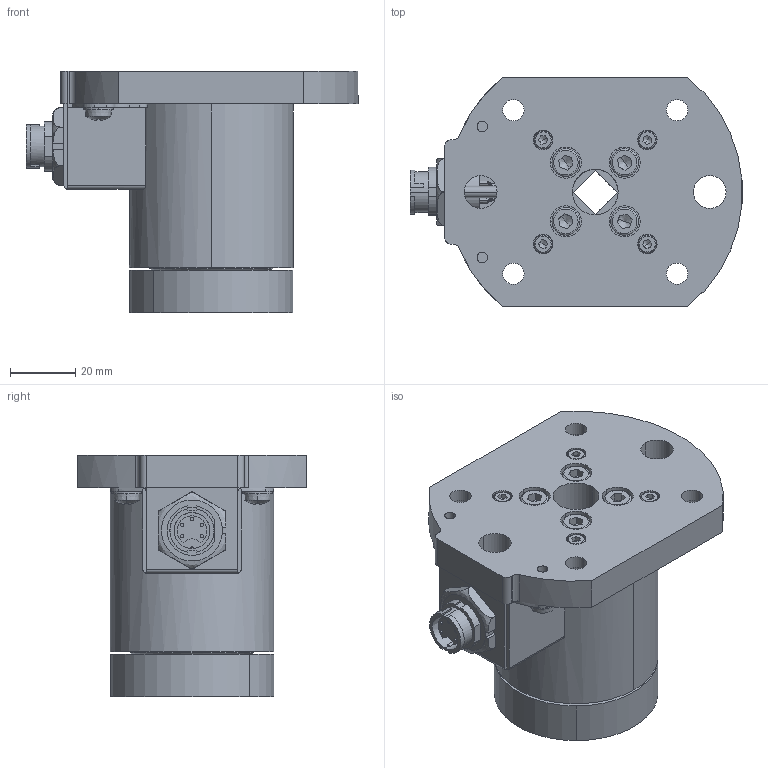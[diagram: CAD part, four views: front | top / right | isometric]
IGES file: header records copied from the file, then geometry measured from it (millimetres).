
Global section: file name: No Iges File Name specified; native system: AutoDesk Inventor R11.0; preprocessor: AutoDesk Inventor Iges Exporter R11.0; author: No Author specified; organization: No Organization specified; date: 20170224.083142; units: millimetre
Bounding box: 101.45 x 70 x 73.8 mm (x, y, z)
Volume: 147566.3 mm3; surface area: 61004.2 mm2
Topology: 5 solids, 25 shells, 913 faces, 2325 edges, 1489 vertices
Faces by surface type: plane 404, bspline 163, cylinder 148, revolution 98, cone 60, torus 36, sphere 4
